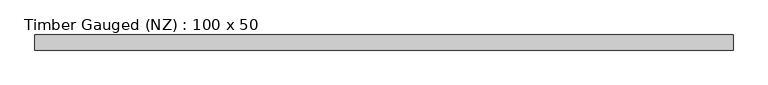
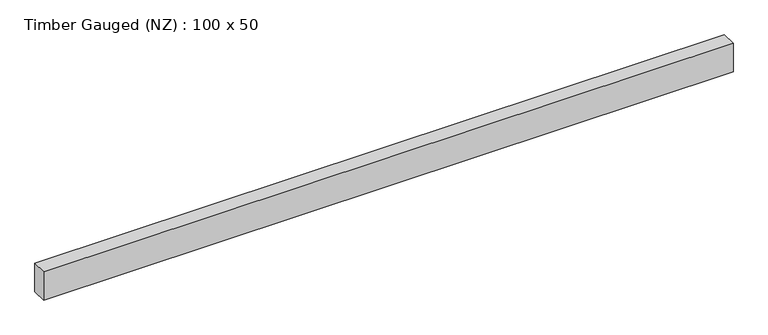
"""IFC4 building model written with IfcOpenShell, lengths in millimetres: beam geometry, Timber Gauged (NZ) : 100 x 50."""

from ifc_helpers import new_model, si_unit, frame, origin, place, context, project, spatial, polyline, outline, extrude, source, transform, mapped, element, save


def timber_gauged_nz_100_x_50_66b63d81(model_context):
    return source(origin(), model_context, "Body", "SweptSolid", [
        extrude(outline(polyline([(1085.5, 23.5), (1085.5, -23.5), (-1085.5, -23.5), (-1085.5, 23.5), (1085.5, 23.5)])), frame((0.0, 0.0, -47.0), z_axis=(0.0, 0.0, 1.0), x_axis=(1.0, 0.0, 0.0)), (0.0, 0.0, 1.0), 94.0),
    ])


if __name__ == "__main__":
    model = new_model("IFC4")
    model_context = context("Model", 3, world=origin())
    ifc_project = project(units=[si_unit("LENGTHUNIT", "METRE", prefix="MILLI")], contexts=[model_context])
    site = spatial("IfcSite", under=ifc_project)
    building = spatial("IfcBuilding", under=site)
    placement = place(None, origin())
    timber_gauged_nz_100_x_50_shape = timber_gauged_nz_100_x_50_66b63d81(model_context)
    element("IfcBeam", 1, ObjectType="Timber Gauged (NZ) : 100 x 50", at=placement, inside=building, context=model_context, shape_type="MappedRepresentation", body=[
        mapped(timber_gauged_nz_100_x_50_shape, transform((0.0, 0.0, 0.0), x_axis=(1.0, 0.0, 0.0), y_axis=(0.0, 1.0, 0.0), z_axis=(0.0, 0.0, 1.0))),
    ])
    save(model, "model.ifc")
